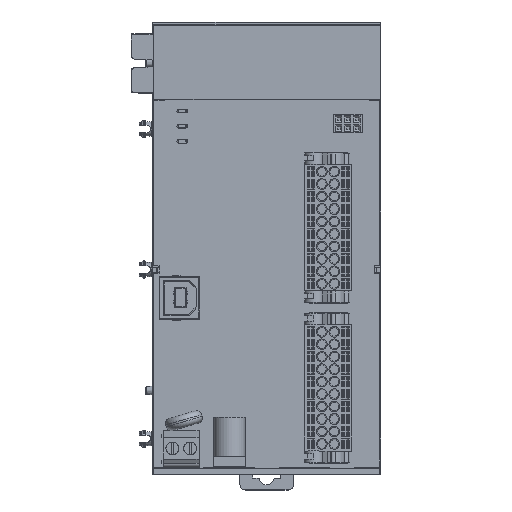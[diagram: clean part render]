
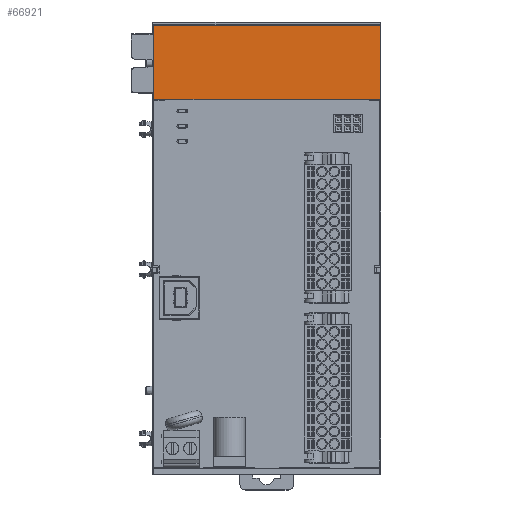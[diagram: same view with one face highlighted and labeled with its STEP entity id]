
A CAD part, top view. The second image highlights one B-rep face of the part: STEP entity #66921.
In plain terms, the highlighted planar face has unit normal (0, 0, 1).
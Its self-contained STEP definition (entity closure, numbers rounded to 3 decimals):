
#384 = CARTESIAN_POINT ( 'NONE',  ( -31.889, 42.015, 9.4 ) ) ;
#2458 = LINE ( 'NONE', #21714, #58512 ) ;
#5681 = EDGE_CURVE ( 'NONE', #29184, #35867, #34670, .T. ) ;
#7769 = DIRECTION ( 'NONE',  ( 1., 0., 0. ) ) ;
#7935 = CARTESIAN_POINT ( 'NONE',  ( 31.911, 41.815, 9.4 ) ) ;
#8159 = CARTESIAN_POINT ( 'NONE',  ( -31.889, 41.815, 9.4 ) ) ;
#10127 = DIRECTION ( 'NONE',  ( 1., 0., 0. ) ) ;
#14025 = ORIENTED_EDGE ( 'NONE', *, *, #81752, .T. ) ;
#14190 = CARTESIAN_POINT ( 'NONE',  ( 0.011, 62.615, 9.4 ) ) ;
#19206 = CARTESIAN_POINT ( 'NONE',  ( -31.689, 41.815, 9.4 ) ) ;
#21714 = CARTESIAN_POINT ( 'NONE',  ( 31.911, 41.815, 9.4 ) ) ;
#22019 = DIRECTION ( 'NONE',  ( 0., 0., 1. ) ) ;
#26776 = DIRECTION ( 'NONE',  ( 0., 1., 0. ) ) ;
#27287 = CARTESIAN_POINT ( 'NONE',  ( 31.711, 41.815, 9.4 ) ) ;
#27414 = DIRECTION ( 'NONE',  ( 0., -1., 0. ) ) ;
#29084 = CARTESIAN_POINT ( 'NONE',  ( -31.889, 62.615, 9.4 ) ) ;
#29184 = VERTEX_POINT ( 'NONE', #29084 ) ;
#30125 =( BOUNDED_CURVE ( )  B_SPLINE_CURVE ( 3, ( #49530, #68757, #75602, #56779 ),
 .UNSPECIFIED., .F., .F. ) 
 B_SPLINE_CURVE_WITH_KNOTS ( ( 4, 4 ),
 ( 5.498, 7.069 ),
 .UNSPECIFIED. ) 
 CURVE ( )  GEOMETRIC_REPRESENTATION_ITEM ( )  RATIONAL_B_SPLINE_CURVE ( ( 1., 0.805, 0.805, 1. ) ) 
 REPRESENTATION_ITEM ( '' )  );
#31165 = CARTESIAN_POINT ( 'NONE',  ( -31.889, 42.015, 9.4 ) ) ;
#34670 = LINE ( 'NONE', #8159, #36557 ) ;
#35253 = EDGE_CURVE ( 'NONE', #69452, #69124, #47720, .T. ) ;
#35751 = ORIENTED_EDGE ( 'NONE', *, *, #71008, .T. ) ;
#35867 = VERTEX_POINT ( 'NONE', #384 ) ;
#36557 = VECTOR ( 'NONE', #27414, 1000. ) ;
#39982 = ORIENTED_EDGE ( 'NONE', *, *, #5681, .T. ) ;
#40280 = LINE ( 'NONE', #14190, #71874 ) ;
#43119 = EDGE_CURVE ( 'NONE', #67997, #69185, #2458, .T. ) ;
#44444 = CARTESIAN_POINT ( 'NONE',  ( 31.911, 62.615, 9.4 ) ) ;
#47720 = LINE ( 'NONE', #7935, #84339 ) ;
#48111 = DIRECTION ( 'NONE',  ( 1., 0., 0. ) ) ;
#49530 = CARTESIAN_POINT ( 'NONE',  ( 31.711, 41.815, 9.4 ) ) ;
#50433 = ORIENTED_EDGE ( 'NONE', *, *, #56688, .F. ) ;
#56688 = EDGE_CURVE ( 'NONE', #29184, #69124, #40280, .T. ) ;
#56779 = CARTESIAN_POINT ( 'NONE',  ( 31.911, 42.015, 9.4 ) ) ;
#57683 = CARTESIAN_POINT ( 'NONE',  ( -31.889, 41.898, 9.4 ) ) ;
#58512 = VECTOR ( 'NONE', #10127, 1000. ) ;
#61772 = FACE_OUTER_BOUND ( 'NONE', #81066, .T. ) ;
#62179 = PLANE ( 'NONE',  #79719 ) ;
#64001 = CARTESIAN_POINT ( 'NONE',  ( 31.911, 42.015, 9.4 ) ) ;
#64597 =( BOUNDED_CURVE ( )  B_SPLINE_CURVE ( 3, ( #31165, #57683, #76517, #70919 ),
 .UNSPECIFIED., .F., .F. ) 
 B_SPLINE_CURVE_WITH_KNOTS ( ( 4, 4 ),
 ( 5.498, 7.069 ),
 .UNSPECIFIED. ) 
 CURVE ( )  GEOMETRIC_REPRESENTATION_ITEM ( )  RATIONAL_B_SPLINE_CURVE ( ( 1., 0.805, 0.805, 1. ) ) 
 REPRESENTATION_ITEM ( '' )  );
#66921 = ADVANCED_FACE ( 'NONE', ( #61772 ), #62179, .T. ) ;
#67997 = VERTEX_POINT ( 'NONE', #19206 ) ;
#68757 = CARTESIAN_POINT ( 'NONE',  ( 31.828, 41.815, 9.4 ) ) ;
#69010 = CARTESIAN_POINT ( 'NONE',  ( 0.011, 52.665, 9.4 ) ) ;
#69124 = VERTEX_POINT ( 'NONE', #44444 ) ;
#69185 = VERTEX_POINT ( 'NONE', #27287 ) ;
#69452 = VERTEX_POINT ( 'NONE', #64001 ) ;
#70919 = CARTESIAN_POINT ( 'NONE',  ( -31.689, 41.815, 9.4 ) ) ;
#71008 = EDGE_CURVE ( 'NONE', #35867, #67997, #64597, .T. ) ;
#71874 = VECTOR ( 'NONE', #7769, 1000. ) ;
#74601 = ORIENTED_EDGE ( 'NONE', *, *, #35253, .T. ) ;
#75602 = CARTESIAN_POINT ( 'NONE',  ( 31.911, 41.898, 9.4 ) ) ;
#76517 = CARTESIAN_POINT ( 'NONE',  ( -31.806, 41.815, 9.4 ) ) ;
#77072 = ORIENTED_EDGE ( 'NONE', *, *, #43119, .T. ) ;
#79719 = AXIS2_PLACEMENT_3D ( 'NONE', #69010, #22019, #48111 ) ;
#81066 = EDGE_LOOP ( 'NONE', ( #77072, #14025, #74601, #50433, #39982, #35751 ) ) ;
#81752 = EDGE_CURVE ( 'NONE', #69185, #69452, #30125, .T. ) ;
#84339 = VECTOR ( 'NONE', #26776, 1000. ) ;
